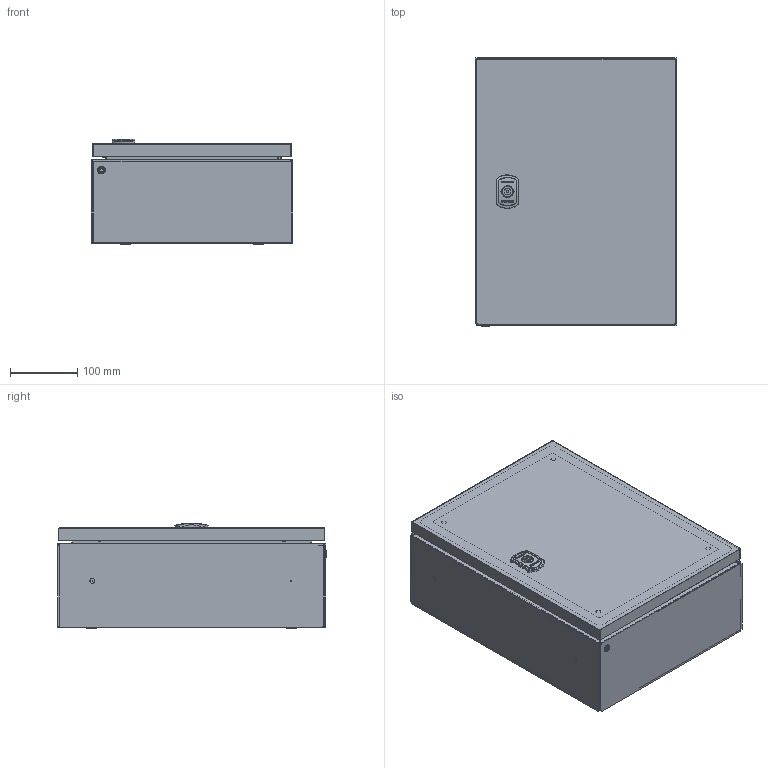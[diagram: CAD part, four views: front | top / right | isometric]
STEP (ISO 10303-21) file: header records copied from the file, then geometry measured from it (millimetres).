
FILE_DESCRIPTION(('Open CASCADE Model'),'2;1');
FILE_NAME('Open CASCADE Shape Model','2025-01-21T00:04:35',('Author'),( 'Open CASCADE'),'Open CASCADE STEP processor 7.8','Open CASCADE 7.8' ,'Unknown');
FILE_SCHEMA(('AUTOMOTIVE_DESIGN { 1 0 10303 214 1 1 1 1 }'));
Length unit declared in the file: millimetre
Products named in the file (28): Compound1; Compound2; Compound3; Compound4; Solid1; Solid2; Solid3; Solid4; Compound5; Solid5; Solid6; Solid7; Solid8; Compound6; Compound7; Solid9; Solid10; Compound8; Solid11; Solid12; Solid13; Solid14; Solid15; Solid16; Solid17; Solid18; Solid19; Solid20
Assembly tree (50 placements, depth 5):
  Compound1
    Compound2
      Compound3
        Compound4
          Solid1
          Solid2
          Solid3  x4
          Solid4  x4
        Compound5  x2
          Solid5
        Solid6  x2
        Solid7  x2
        Solid8  x2
      Compound6
        Compound7
          Solid9
          Solid10  x4
        Compound8
          Solid11
          Solid12
          Solid13
          Solid14
          Solid15
        Solid16
      Solid17  x4
      Solid18  x4
      Solid19
    Solid20  x5
Bounding box: 300 x 401 x 157.71 mm (x, y, z)
Volume: 910748.7 mm3; surface area: 1259559.1 mm2
Topology: 43 solids, 43 shells, 2780 faces, 6952 edges, 4374 vertices
Faces by surface type: plane 1262, cylinder 791, bspline 332, torus 209, cone 146, sphere 36, revolution 4
Full cylindrical faces by diameter (mm): 5.5 x4, 8 x1
Entity records: 131740 total; most frequent: CARTESIAN_POINT 77374, ORIENTED_EDGE 11628, DIRECTION 10606, EDGE_CURVE 5814, VERTEX_POINT 3696, AXIS2_PLACEMENT_3D 3636, LINE 3330, VECTOR 3330
